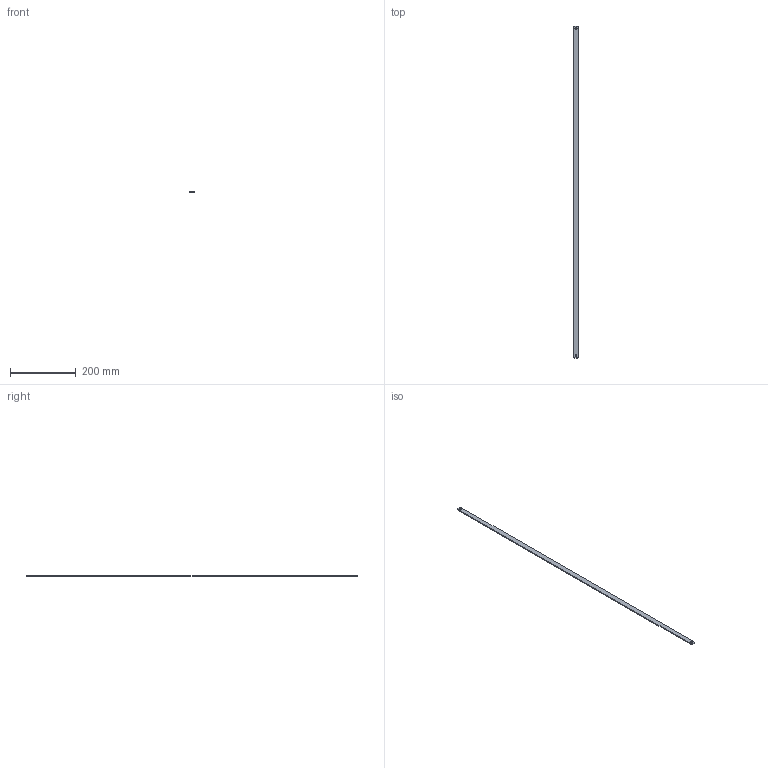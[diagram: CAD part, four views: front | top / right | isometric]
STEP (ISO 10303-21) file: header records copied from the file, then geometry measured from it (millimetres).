
FILE_DESCRIPTION (( 'STEP AP214' ), '1' );
FILE_NAME ('DP.01 - 1000.STEP', '2016-09-08T08:29:37', ( '' ), ( '' ), 'SwSTEP 2.0', 'SolidWorks 2015', '' );
FILE_SCHEMA (( 'AUTOMOTIVE_DESIGN' ));
Length unit declared in the file: millimetre
Products named in the file (1): DP.01 - 1000
Bounding box: 14 x 1007.5 x 3 mm (x, y, z)
Volume: 42099.2 mm3; surface area: 34284.3 mm2
Topology: 1 solids, 1 shells, 14 faces, 36 edges, 24 vertices
Faces by surface type: plane 10, cylinder 4
Entity records: 470 total; most frequent: CARTESIAN_POINT 75, DIRECTION 74, ORIENTED_EDGE 72, EDGE_CURVE 36, LINE 28, VECTOR 28, VERTEX_POINT 24, AXIS2_PLACEMENT_3D 23
